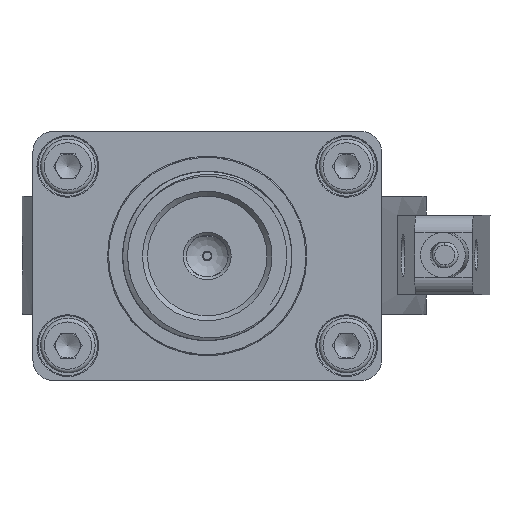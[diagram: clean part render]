
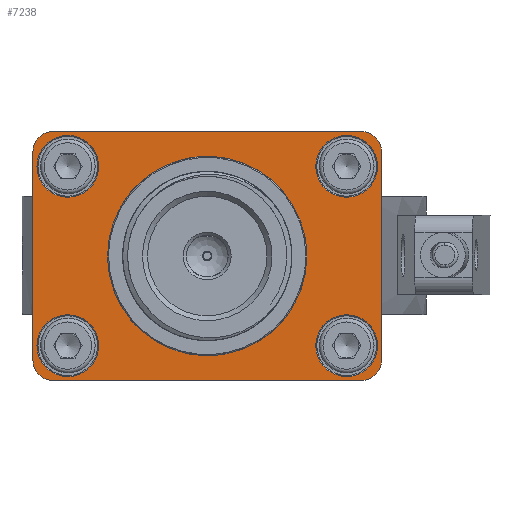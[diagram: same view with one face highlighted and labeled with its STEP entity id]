
A CAD part, front view. The second image highlights one B-rep face of the part: STEP entity #7238.
In plain terms, the highlighted planar face has unit normal (0, -1, 0).
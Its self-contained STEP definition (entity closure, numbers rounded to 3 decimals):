
#4645=PLANE('',#14745);
#4920=LINE('',#18965,#5678);
#4927=LINE('',#18986,#5685);
#4942=LINE('',#19036,#5700);
#4950=LINE('',#19065,#5708);
#5678=VECTOR('',#15672,1.);
#5685=VECTOR('',#15683,1.);
#5700=VECTOR('',#15716,1.);
#5708=VECTOR('',#15738,1.);
#6686=FACE_BOUND('',#8338,.T.);
#6687=FACE_BOUND('',#8339,.T.);
#6688=FACE_BOUND('',#8340,.T.);
#6689=FACE_BOUND('',#8341,.T.);
#6690=FACE_BOUND('',#8342,.T.);
#6691=FACE_BOUND('',#8343,.T.);
#7238=ADVANCED_FACE('',(#6686,#6687,#6688,#6689,#6690,#6691),#4645,.T.);
#8338=EDGE_LOOP('',(#10214));
#8339=EDGE_LOOP('',(#10215));
#8340=EDGE_LOOP('',(#10216));
#8341=EDGE_LOOP('',(#10217));
#8342=EDGE_LOOP('',(#10218));
#8343=EDGE_LOOP('',(#10219,#10220,#10221,#10222,#10223,#10224,#10225,#10226));
#9025=CIRCLE('',#14542,2.);
#9030=CIRCLE('',#14551,2.);
#9031=CIRCLE('',#14553,2.);
#9036=CIRCLE('',#14562,2.);
#9110=CIRCLE('',#14735,10.);
#9111=CIRCLE('',#14737,3.1);
#9112=CIRCLE('',#14739,3.1);
#9113=CIRCLE('',#14741,3.1);
#9114=CIRCLE('',#14743,3.1);
#10214=ORIENTED_EDGE('',*,*,#13366,.T.);
#10215=ORIENTED_EDGE('',*,*,#13365,.T.);
#10216=ORIENTED_EDGE('',*,*,#13364,.T.);
#10217=ORIENTED_EDGE('',*,*,#13363,.T.);
#10218=ORIENTED_EDGE('',*,*,#13362,.T.);
#10219=ORIENTED_EDGE('',*,*,#13182,.F.);
#10220=ORIENTED_EDGE('',*,*,#13096,.F.);
#10221=ORIENTED_EDGE('',*,*,#13177,.F.);
#10222=ORIENTED_EDGE('',*,*,#13053,.F.);
#10223=ORIENTED_EDGE('',*,*,#13176,.F.);
#10224=ORIENTED_EDGE('',*,*,#13082,.F.);
#10225=ORIENTED_EDGE('',*,*,#13171,.F.);
#10226=ORIENTED_EDGE('',*,*,#13061,.F.);
#12092=VERTEX_POINT('',#18964);
#12093=VERTEX_POINT('',#18966);
#12098=VERTEX_POINT('',#18985);
#12099=VERTEX_POINT('',#18987);
#12118=VERTEX_POINT('',#19035);
#12119=VERTEX_POINT('',#19037);
#12132=VERTEX_POINT('',#19064);
#12133=VERTEX_POINT('',#19066);
#12286=VERTEX_POINT('',#20055);
#12287=VERTEX_POINT('',#20058);
#12288=VERTEX_POINT('',#20061);
#12289=VERTEX_POINT('',#20064);
#12290=VERTEX_POINT('',#20067);
#13053=EDGE_CURVE('',#12092,#12093,#4920,.T.);
#13061=EDGE_CURVE('',#12098,#12099,#4927,.T.);
#13082=EDGE_CURVE('',#12118,#12119,#4942,.T.);
#13096=EDGE_CURVE('',#12132,#12133,#4950,.T.);
#13171=EDGE_CURVE('',#12099,#12118,#9025,.T.);
#13176=EDGE_CURVE('',#12119,#12092,#9030,.T.);
#13177=EDGE_CURVE('',#12093,#12132,#9031,.T.);
#13182=EDGE_CURVE('',#12133,#12098,#9036,.T.);
#13362=EDGE_CURVE('',#12286,#12286,#9110,.T.);
#13363=EDGE_CURVE('',#12287,#12287,#9111,.T.);
#13364=EDGE_CURVE('',#12288,#12288,#9112,.T.);
#13365=EDGE_CURVE('',#12289,#12289,#9113,.T.);
#13366=EDGE_CURVE('',#12290,#12290,#9114,.T.);
#14542=AXIS2_PLACEMENT_3D('',#19305,#15881,#15882);
#14551=AXIS2_PLACEMENT_3D('',#19314,#15899,#15900);
#14553=AXIS2_PLACEMENT_3D('',#19316,#15903,#15904);
#14562=AXIS2_PLACEMENT_3D('',#19325,#15921,#15922);
#14735=AXIS2_PLACEMENT_3D('',#20054,#16363,#16364);
#14737=AXIS2_PLACEMENT_3D('',#20057,#16367,#16368);
#14739=AXIS2_PLACEMENT_3D('',#20060,#16371,#16372);
#14741=AXIS2_PLACEMENT_3D('',#20063,#16375,#16376);
#14743=AXIS2_PLACEMENT_3D('',#20066,#16379,#16380);
#14745=AXIS2_PLACEMENT_3D('',#20069,#16383,#16384);
#15672=DIRECTION('',(0.,0.,-1.));
#15683=DIRECTION('',(0.,0.,1.));
#15716=DIRECTION('',(1.,0.,0.));
#15738=DIRECTION('',(-1.,0.,0.));
#15881=DIRECTION('',(0.,1.,0.));
#15882=DIRECTION('',(0.,0.,-1.));
#15899=DIRECTION('',(0.,1.,0.));
#15900=DIRECTION('',(0.,0.,-1.));
#15903=DIRECTION('',(0.,1.,0.));
#15904=DIRECTION('',(0.,0.,-1.));
#15921=DIRECTION('',(0.,1.,0.));
#15922=DIRECTION('',(0.,0.,-1.));
#16363=DIRECTION('',(0.,1.,0.));
#16364=DIRECTION('',(1.,0.,0.));
#16367=DIRECTION('',(0.,1.,0.));
#16368=DIRECTION('',(0.,0.,-1.));
#16371=DIRECTION('',(0.,1.,0.));
#16372=DIRECTION('',(0.,0.,-1.));
#16375=DIRECTION('',(0.,1.,0.));
#16376=DIRECTION('',(0.,0.,-1.));
#16379=DIRECTION('',(0.,1.,0.));
#16380=DIRECTION('',(0.,0.,-1.));
#16383=DIRECTION('',(0.,-1.,0.));
#16384=DIRECTION('',(-1.,0.,0.));
#18964=CARTESIAN_POINT('',(281.,-30.675,-47.5));
#18965=CARTESIAN_POINT('',(281.,-30.675,-45.5));
#18966=CARTESIAN_POINT('',(281.,-30.675,-68.5));
#18985=CARTESIAN_POINT('',(246.,-30.675,-68.5));
#18986=CARTESIAN_POINT('',(246.,-30.675,-70.5));
#18987=CARTESIAN_POINT('',(246.,-30.675,-47.5));
#19035=CARTESIAN_POINT('',(248.,-30.675,-45.5));
#19036=CARTESIAN_POINT('',(246.,-30.675,-45.5));
#19037=CARTESIAN_POINT('',(279.,-30.675,-45.5));
#19064=CARTESIAN_POINT('',(279.,-30.675,-70.5));
#19065=CARTESIAN_POINT('',(281.,-30.675,-70.5));
#19066=CARTESIAN_POINT('',(248.,-30.675,-70.5));
#19305=CARTESIAN_POINT('',(248.,-30.675,-47.5));
#19314=CARTESIAN_POINT('',(279.,-30.675,-47.5));
#19316=CARTESIAN_POINT('',(279.,-30.675,-68.5));
#19325=CARTESIAN_POINT('',(248.,-30.675,-68.5));
#20054=CARTESIAN_POINT('',(263.5,-30.675,-58.));
#20055=CARTESIAN_POINT('',(273.5,-30.675,-58.));
#20057=CARTESIAN_POINT('',(277.5,-30.675,-67.));
#20058=CARTESIAN_POINT('',(277.5,-30.675,-70.1));
#20060=CARTESIAN_POINT('',(277.5,-30.675,-49.));
#20061=CARTESIAN_POINT('',(277.5,-30.675,-52.1));
#20063=CARTESIAN_POINT('',(249.5,-30.675,-49.));
#20064=CARTESIAN_POINT('',(249.5,-30.675,-52.1));
#20066=CARTESIAN_POINT('',(249.5,-30.675,-67.));
#20067=CARTESIAN_POINT('',(249.5,-30.675,-70.1));
#20069=CARTESIAN_POINT('',(249.5,-30.675,-67.));
